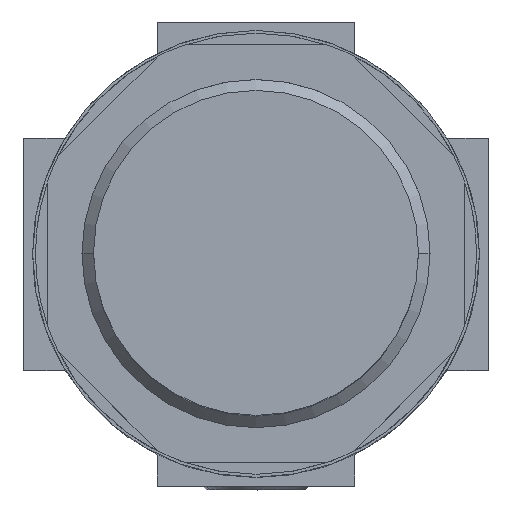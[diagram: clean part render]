
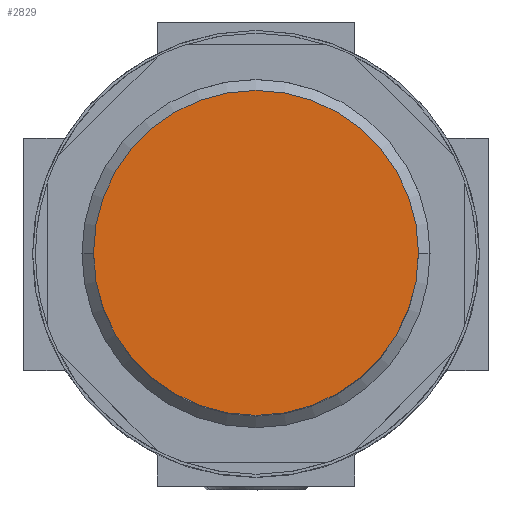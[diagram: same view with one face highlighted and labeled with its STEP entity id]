
A CAD part, top view. The second image highlights one B-rep face of the part: STEP entity #2829.
In plain terms, the highlighted planar face has unit normal (0, 0, 1) as drawn and (0, 0, -1) by its records, which use the part's own axes.
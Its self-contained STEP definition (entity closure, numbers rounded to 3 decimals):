
#356=CARTESIAN_POINT('',(14.0,0.0,-47.0));
#357=VERTEX_POINT('',#356);
#366=CARTESIAN_POINT('',(-14.0,0.,-47.0));
#367=VERTEX_POINT('',#366);
#368=CARTESIAN_POINT('',(0.0,0.0,-47.0));
#369=DIRECTION('',(0.0,0.0,1.0));
#370=DIRECTION('',(1.0,0.0,0.0));
#371=AXIS2_PLACEMENT_3D('',#368,#369,#370);
#372=CIRCLE('',#371,14.0);
#373=EDGE_CURVE('',#357,#367,#372,.T.);
#2814=CARTESIAN_POINT('',(7.0,0.0,-47.0));
#2815=DIRECTION('',(0.0,0.0,-1.0));
#2816=DIRECTION('',(-1.0,0.0,0.0));
#2817=AXIS2_PLACEMENT_3D('',#2814,#2815,#2816);
#2818=PLANE('',#2817);
#2819=ORIENTED_EDGE('',*,*,#373,.F.);
#2820=CARTESIAN_POINT('',(0.0,0.0,-47.0));
#2821=DIRECTION('',(0.0,0.0,1.0));
#2822=DIRECTION('',(1.0,0.0,0.0));
#2823=AXIS2_PLACEMENT_3D('',#2820,#2821,#2822);
#2824=CIRCLE('',#2823,14.0);
#2825=EDGE_CURVE('',#367,#357,#2824,.T.);
#2826=ORIENTED_EDGE('',*,*,#2825,.F.);
#2827=EDGE_LOOP('',(#2819,#2826));
#2828=FACE_OUTER_BOUND('',#2827,.T.);
#2829=ADVANCED_FACE('',(#2828),#2818,.T.);
